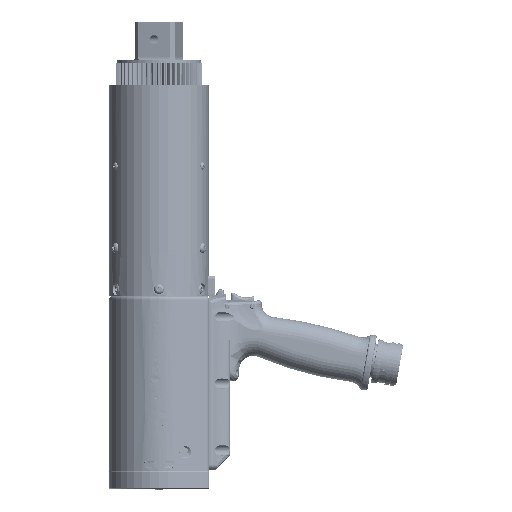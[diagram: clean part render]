
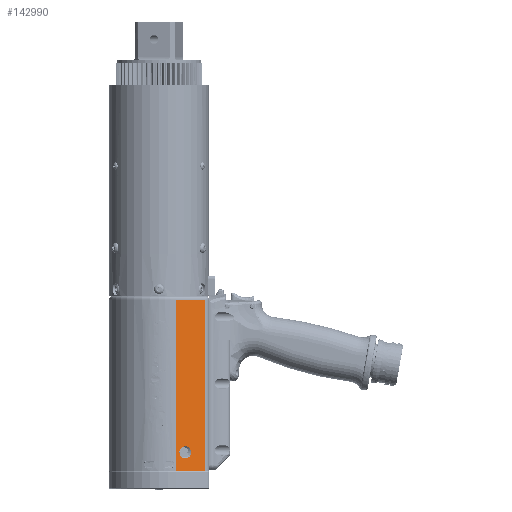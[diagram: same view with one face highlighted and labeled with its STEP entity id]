
A CAD part, left-side view. The second image highlights one B-rep face of the part: STEP entity #142990.
In plain terms, the highlighted planar face has unit normal (-0.94, -0.342, 0).
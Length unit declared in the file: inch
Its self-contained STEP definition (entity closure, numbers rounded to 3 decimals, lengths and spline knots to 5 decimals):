
#80 = LINE ( 'NONE', #138705, #12016 ) ;
#2328 = DIRECTION ( 'NONE',  ( 0., 0., 1. ) ) ;
#3532 =( BOUNDED_CURVE ( )  B_SPLINE_CURVE ( 3, ( #259607, #10630, #278703, #100521, #82740, #238985, #171324 ),
 .UNSPECIFIED., .F., .T. ) 
 B_SPLINE_CURVE_WITH_KNOTS ( ( 4, 3, 4 ),
 ( 4.55842, 6.28319, 8.00795 ),
 .UNSPECIFIED. ) 
 CURVE ( )  GEOMETRIC_REPRESENTATION_ITEM ( )  RATIONAL_B_SPLINE_CURVE ( ( 1., 0.767, 0.767, 1., 0.767, 0.767, 1. ) ) 
 REPRESENTATION_ITEM ( '' )  );
#10433 = PLANE ( 'NONE',  #290414 ) ;
#10630 = CARTESIAN_POINT ( 'NONE',  ( -1.53272, -1.05186, -12.82965 ) ) ;
#11435 = ORIENTED_EDGE ( 'NONE', *, *, #282211, .F. ) ;
#12016 = VECTOR ( 'NONE', #247658, 39.37008 ) ;
#22133 = LINE ( 'NONE', #201895, #40081 ) ;
#25800 = EDGE_CURVE ( 'NONE', #71038, #157045, #22133, .T. ) ;
#40081 = VECTOR ( 'NONE', #132674, 39.37008 ) ;
#61594 = VERTEX_POINT ( 'NONE', #89362 ) ;
#61700 = CARTESIAN_POINT ( 'NONE',  ( -1.58292, -0.9139, -12.80748 ) ) ;
#64740 = VERTEX_POINT ( 'NONE', #147297 ) ;
#71038 = VERTEX_POINT ( 'NONE', #183752 ) ;
#72524 = DIRECTION ( 'NONE',  ( 0.342, -0.94, 0. ) ) ;
#73738 = ORIENTED_EDGE ( 'NONE', *, *, #25800, .T. ) ;
#74330 = ORIENTED_EDGE ( 'NONE', *, *, #151411, .F. ) ;
#76852 = FACE_BOUND ( 'NONE', #209582, .T. ) ;
#82740 = CARTESIAN_POINT ( 'NONE',  ( -1.49414, -1.15789, -12.44642 ) ) ;
#89362 = CARTESIAN_POINT ( 'NONE',  ( -1.30839, -1.66839, -13.27 ) ) ;
#97013 = VECTOR ( 'NONE', #240051, 39.37008 ) ;
#98877 = DIRECTION ( 'NONE',  ( 0.94, 0.342, 0. ) ) ;
#99676 = VERTEX_POINT ( 'NONE', #142567 ) ;
#100521 = CARTESIAN_POINT ( 'NONE',  ( -1.49414, -1.15789, -12.591 ) ) ;
#121090 = FACE_OUTER_BOUND ( 'NONE', #245147, .T. ) ;
#129554 = CARTESIAN_POINT ( 'NONE',  ( -1.58292, -0.9139, -12.80748 ) ) ;
#132674 = DIRECTION ( 'NONE',  ( -0.342, 0.94, 0. ) ) ;
#138705 = CARTESIAN_POINT ( 'NONE',  ( -1.30839, -1.66839, -13.27 ) ) ;
#139230 = ORIENTED_EDGE ( 'NONE', *, *, #200312, .F. ) ;
#142567 = CARTESIAN_POINT ( 'NONE',  ( -1.6915, -0.61548, -13.27 ) ) ;
#142990 = ADVANCED_FACE ( 'NONE', ( #121090, #76852 ), #10433, .F. ) ;
#145907 = ORIENTED_EDGE ( 'NONE', *, *, #147729, .F. ) ;
#147297 = CARTESIAN_POINT ( 'NONE',  ( -1.58292, -0.9139, -12.37452 ) ) ;
#147729 = EDGE_CURVE ( 'NONE', #272919, #64740, #3532, .T. ) ;
#151127 = EDGE_CURVE ( 'NONE', #61594, #71038, #80, .T. ) ;
#151411 = EDGE_CURVE ( 'NONE', #61594, #99676, #153232, .T. ) ;
#151783 = CARTESIAN_POINT ( 'NONE',  ( -1.69796, -0.59773, -12.42534 ) ) ;
#153232 = LINE ( 'NONE', #216498, #97013 ) ;
#157045 = VERTEX_POINT ( 'NONE', #173238 ) ;
#171324 = CARTESIAN_POINT ( 'NONE',  ( -1.58292, -0.9139, -12.37452 ) ) ;
#173238 = CARTESIAN_POINT ( 'NONE',  ( -1.6915, -0.61548, -7.095 ) ) ;
#183752 = CARTESIAN_POINT ( 'NONE',  ( -1.30839, -1.66839, -7.095 ) ) ;
#198451 = LINE ( 'NONE', #269013, #215322 ) ;
#198760 = CARTESIAN_POINT ( 'NONE',  ( -1.69796, -0.59773, -12.75666 ) ) ;
#200312 = EDGE_CURVE ( 'NONE', #99676, #157045, #198451, .T. ) ;
#201895 = CARTESIAN_POINT ( 'NONE',  ( -1.2605, -1.8, -7.095 ) ) ;
#206547 = CARTESIAN_POINT ( 'NONE',  ( -1.2605, -1.8, -13.27 ) ) ;
#209582 = EDGE_LOOP ( 'NONE', ( #145907, #11435 ) ) ;
#215322 = VECTOR ( 'NONE', #2328, 39.37008 ) ;
#216498 = CARTESIAN_POINT ( 'NONE',  ( -1.2605, -1.8, -13.27 ) ) ;
#238985 = CARTESIAN_POINT ( 'NONE',  ( -1.53272, -1.05186, -12.35235 ) ) ;
#240051 = DIRECTION ( 'NONE',  ( -0.342, 0.94, 0. ) ) ;
#242690 =( BOUNDED_CURVE ( )  B_SPLINE_CURVE ( 3, ( #285534, #151783, #198760, #129554 ),
 .UNSPECIFIED., .F., .T. ) 
 B_SPLINE_CURVE_WITH_KNOTS ( ( 4, 4 ),
 ( 1.72477, 4.55842 ),
 .UNSPECIFIED. ) 
 CURVE ( )  GEOMETRIC_REPRESENTATION_ITEM ( )  RATIONAL_B_SPLINE_CURVE ( ( 1., 0.436, 0.436, 1. ) ) 
 REPRESENTATION_ITEM ( '' )  );
#245147 = EDGE_LOOP ( 'NONE', ( #279550, #73738, #139230, #74330 ) ) ;
#247658 = DIRECTION ( 'NONE',  ( 0., 0., 1. ) ) ;
#259607 = CARTESIAN_POINT ( 'NONE',  ( -1.58292, -0.9139, -12.80748 ) ) ;
#269013 = CARTESIAN_POINT ( 'NONE',  ( -1.6915, -0.61548, -13.27 ) ) ;
#272919 = VERTEX_POINT ( 'NONE', #61700 ) ;
#278703 = CARTESIAN_POINT ( 'NONE',  ( -1.49414, -1.15789, -12.73558 ) ) ;
#279550 = ORIENTED_EDGE ( 'NONE', *, *, #151127, .T. ) ;
#282211 = EDGE_CURVE ( 'NONE', #64740, #272919, #242690, .T. ) ;
#285534 = CARTESIAN_POINT ( 'NONE',  ( -1.58292, -0.9139, -12.37452 ) ) ;
#290414 = AXIS2_PLACEMENT_3D ( 'NONE', #206547, #98877, #72524 ) ;
